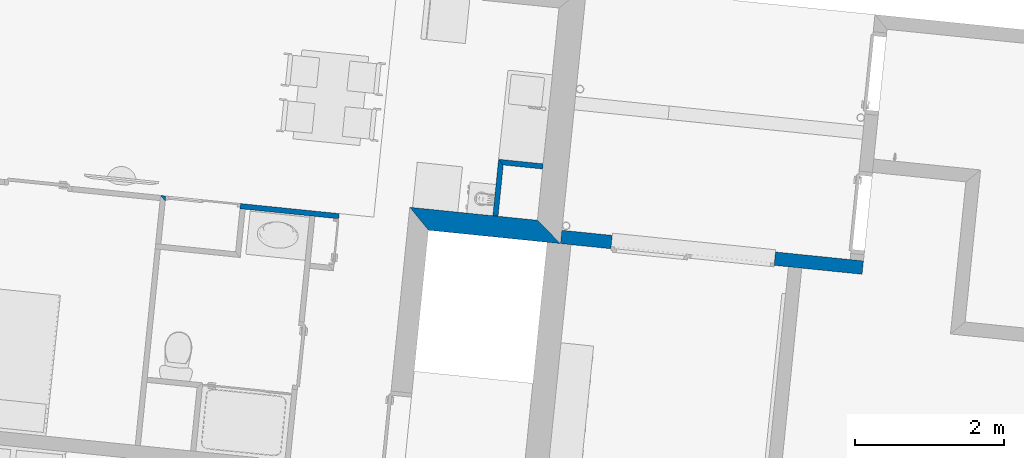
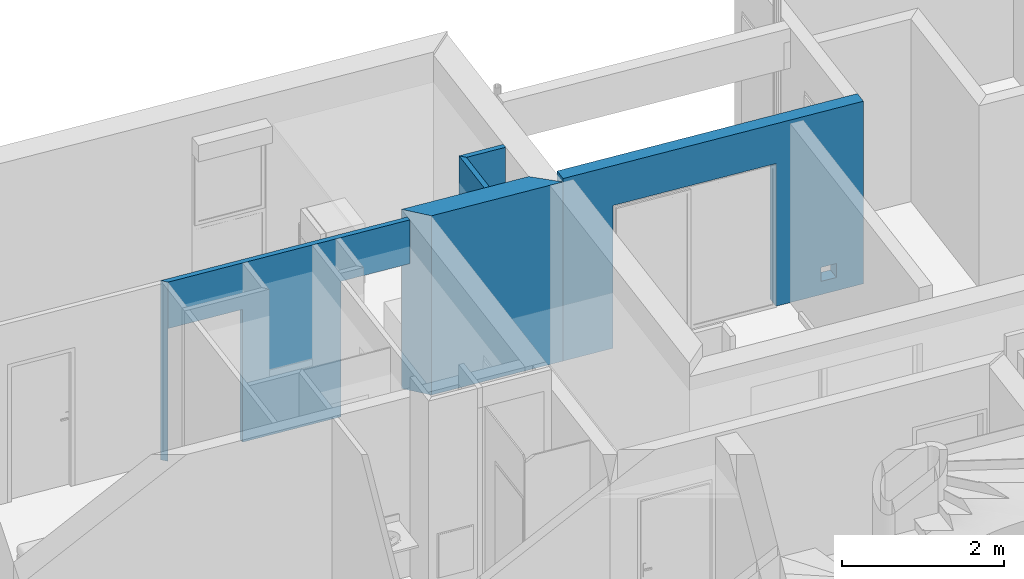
# One storey, part 71 of 171: 5 walls, 4 openings.
"""IFC2X3 building model written with IfcOpenShell, lengths in millimetres."""

from ifc_helpers import new_model, entity, si_unit, converted_unit, derived_unit, money_unit, direction, frame, origin_with_axes, origin_2d_with_axis, place, context, subcontext, project, spatial, polyline, rectangle, outline, extrude, material, layer, layer_set, layer_usage, type_object, element, save


model = new_model("IFC2X3")

# Units and contexts
model_context = context("Model", 3, precision=0.01, world=origin_with_axes(), true_north=direction((0.0, 1.0)))
body_context = subcontext(model_context, "Body", "Model", "MODEL_VIEW")
ifc_project = project(units=[si_unit("LENGTHUNIT", "METRE", prefix="MILLI"), si_unit("AREAUNIT", "SQUARE_METRE"), si_unit("VOLUMEUNIT", "CUBIC_METRE"), converted_unit("PLANEANGLEUNIT", "DEGREE", entity("IfcPlaneAngleMeasure", 0.0174532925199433), si_unit("PLANEANGLEUNIT", "RADIAN"), dimensions=[0, 0, 0, 0, 0, 0, 0]), money_unit("USD"), converted_unit("TIMEUNIT", "Year", entity("IfcTimeMeasure", 31557600.0), si_unit("TIMEUNIT", "SECOND"), dimensions=[0, 0, 1, 0, 0, 0, 0]), si_unit("MASSUNIT", "GRAM", prefix="KILO"), si_unit("THERMODYNAMICTEMPERATUREUNIT", "DEGREE_CELSIUS"), si_unit("LUMINOUSINTENSITYUNIT", "LUMEN"), si_unit("ENERGYUNIT", "JOULE", prefix="MEGA"), derived_unit("THERMALCONDUCTANCEUNIT", [(si_unit("POWERUNIT", "WATT"), 1), (si_unit("LENGTHUNIT", "METRE"), -1), (si_unit("THERMODYNAMICTEMPERATUREUNIT", "KELVIN"), -1)]), derived_unit("SPECIFICHEATCAPACITYUNIT", [(si_unit("ENERGYUNIT", "JOULE"), 1), (si_unit("MASSUNIT", "GRAM", prefix="KILO"), -1), (si_unit("THERMODYNAMICTEMPERATUREUNIT", "KELVIN"), -1)]), derived_unit("MASSDENSITYUNIT", [(si_unit("MASSUNIT", "GRAM", prefix="KILO"), 1), (si_unit("VOLUMEUNIT", "CUBIC_METRE"), -1)])], contexts=[model_context])

# Site, building, storey
site_placement = place(None, origin_with_axes())
site = spatial("IfcSite", under=ifc_project, at=site_placement, Name="Site", CompositionType="ELEMENT")
building_placement = place(site_placement, origin_with_axes())
building = spatial("IfcBuilding", under=site, at=building_placement, Name="Bâtiment", CompositionType="ELEMENT")
storey_placement = place(building_placement, frame((0.0, 0.0, 3000.0), z_axis=(0.0, 0.0, 1.0), x_axis=(1.0, 0.0, 0.0)))
storey = spatial("IfcBuildingStorey", under=building, at=storey_placement, Name="rdc", CompositionType="ELEMENT", Elevation=3000.0)

# Wall, openings
ifc_material_1 = material(Name="Hachure solide 268963992")
ifc_layer_1 = layer(ifc_material_1, 70.0, ventilated="UNKNOWN")
ifc_layer_set_1 = layer_set([ifc_layer_1], Name="Cloison 70 0826278243")
ifc_layer_usage_1 = layer_usage(ifc_layer_set_1, "AXIS2", "POSITIVE", -70.0)
wall_type_1 = type_object("IfcWallType", Name="Cloison 70 0826278243 70", PredefinedType="NOTDEFINED")
wall_1_placement = place(storey_placement, frame((2220799.415976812, -607663.1592158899, 0.0), z_axis=(0.0, 0.0, 1.0), x_axis=(0.9948759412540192, -0.1011032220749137, 0.0)))
wall_1 = element("IfcWallStandardCase", 1, at=wall_1_placement, inside=storey, type_object=wall_type_1, material=ifc_layer_usage_1, Name="Mur-149", context=body_context, shape_type="SweptSolid", body=[
    extrude(outline(polyline([(70.00761785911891, -70.00000000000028), (3339.219374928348, -70.00000000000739), (3339.219374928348, 0.0), (-2.273736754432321e-10, 0.0), (70.00761785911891, -70.00000000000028)])), origin_with_axes(), (0.0, 0.0, 1.0), 2700.0),
])
opening_1_placement = place(wall_1_placement, frame((2872.832599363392, 0.0, 0.0), z_axis=(0.0, 0.0, 1.0), x_axis=(1.0, 0.0, 0.0)))
element("IfcOpeningElement", 2, at=opening_1_placement, cuts=wall_1, Name="Por-287", context=body_context, shape_type="SweptSolid", body=[
    extrude(rectangle(XDim=932.773551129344, YDim=2040.0, at=origin_2d_with_axis()), frame((0.0, 0.0, 1020.0), z_axis=(0.0, -1.0, 0.0), x_axis=(1.0, 0.0, 0.0)), (0.0, 0.0, -1.0), 70.0),
    extrude(rectangle(XDim=932.773551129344, YDim=2040.0, at=origin_2d_with_axis()), frame((0.0, 0.0, 1020.0), z_axis=(0.0, 1.0, 0.0), x_axis=(1.0, 0.0, 0.0)), (0.0, 0.0, -1.0), 70.0),
])
opening_2_placement = place(wall_1_placement, frame((573.4097265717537, 0.0, 0.0), z_axis=(0.0, 0.0, 1.0), x_axis=(1.0, 0.0, 0.0)))
element("IfcOpeningElement", 3, at=opening_2_placement, cuts=wall_1, Name="Por-322", context=body_context, shape_type="SweptSolid", body=[
    extrude(rectangle(XDim=1006.804217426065, YDim=2000.0, at=origin_2d_with_axis()), frame((0.0, 0.0, 1000.0), z_axis=(0.0, -1.0, 0.0), x_axis=(1.0, 0.0, 0.0)), (0.0, 0.0, -1.0), 70.0),
    extrude(rectangle(XDim=1006.804217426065, YDim=2000.0, at=origin_2d_with_axis()), frame((0.0, 0.0, 1000.0), z_axis=(0.0, 1.0, 0.0), x_axis=(1.0, 0.0, 0.0)), (0.0, 0.0, -1.0), 70.0),
])

# Walls
ifc_layer_usage_2 = layer_usage(ifc_layer_set_1, "AXIS2", "NEGATIVE", 70.0)
wall_2_placement = place(storey_placement, frame((2225330.464041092, -607179.0110872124, 0.0), z_axis=(0.0, 0.0, 1.0), x_axis=(-0.1011032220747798, -0.9948759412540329, 0.0)))
element("IfcWallStandardCase", 4, at=wall_2_placement, inside=storey, type_object=wall_type_1, material=ifc_layer_usage_2, Name="Mur-149", context=body_context, shape_type="SweptSolid", body=[
    extrude(outline(polyline([(0.0, 0.0), (760.3379417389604, 0.0), (760.3379417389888, 70.00000000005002), (70.00000000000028, 70.00000000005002), (0.0, 0.0)])), origin_with_axes(), (0.0, 0.0, 1.0), 2700.0),
])
ifc_layer_usage_3 = layer_usage(ifc_layer_set_1, "AXIS2", "NEGATIVE", 70.0)
wall_3_placement = place(storey_placement, frame((2226265.983473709, -607274.0822664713, 0.0), z_axis=(0.0, 0.0, 1.0), x_axis=(-0.9948759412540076, 0.1011032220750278, 0.0)))
element("IfcWallStandardCase", 5, at=wall_3_placement, inside=storey, type_object=wall_type_1, material=ifc_layer_usage_3, Name="Mur-149", context=body_context, shape_type="SweptSolid", body=[
    extrude(outline(polyline([(339.9999999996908, 0.0), (940.3377786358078, 0.0), (870.3377786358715, 69.99999999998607), (340.0000069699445, 69.99999999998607), (339.9999999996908, 0.0)])), origin_with_axes(), (0.0, 0.0, 1.0), 2700.0),
])
ifc_material_2 = material(Name="Parpaing 312445824")
ifc_layer_2 = layer(ifc_material_2, 180.0, ventilated="UNKNOWN")
ifc_material_3 = material(Name="Isolant styromousse 301821074")
ifc_layer_3 = layer(ifc_material_3, 100.0, ventilated="UNKNOWN")
ifc_layer_set_2 = layer_set([ifc_layer_2, ifc_layer_3], Name="isol int 18+10 0018356637")
ifc_layer_usage_4 = layer_usage(ifc_layer_set_2, "AXIS2", "POSITIVE", 0.0)
wall_type_2 = type_object("IfcWallType", Name="isol int 18+10 0018356637 280", PredefinedType="NOTDEFINED")
wall_4_placement = place(storey_placement, frame((2224389.922679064, -608129.1257098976, 0.0), z_axis=(0.0, 0.0, 1.0), x_axis=(0.9948759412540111, -0.1011032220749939, 0.0)))
element("IfcWallStandardCase", 6, at=wall_4_placement, inside=storey, type_object=wall_type_2, material=ifc_layer_usage_4, Name="Mur-142", context=body_context, shape_type="SweptSolid", body=[
    extrude(outline(polyline([(0.0, 0.0), (1779.999998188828, 0.0), (1440.000026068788, 280.0000000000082), (-280.0000000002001, 280.0000000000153), (0.0, 0.0)])), origin_with_axes(), (0.0, 0.0, 1.0), 2700.0),
])

# Wall, openings
ifc_layer_4 = layer(ifc_material_2, 180.0, ventilated="UNKNOWN")
ifc_layer_set_3 = layer_set([ifc_layer_4], Name="Beton  18 0836643197")
ifc_layer_usage_5 = layer_usage(ifc_layer_set_3, "AXIS2", "NEGATIVE", 0.0)
wall_type_3 = type_object("IfcWallType", Name="Beton  18 0836643197 180", PredefinedType="NOTDEFINED")
wall_5_placement = place(storey_placement, frame((2226179.000289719, -608130.0117790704, 0.0), z_axis=(0.0, 0.0, 1.0), x_axis=(0.9948663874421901, -0.1011971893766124, 0.0)))
wall_5 = element("IfcWallStandardCase", 7, at=wall_5_placement, inside=storey, type_object=wall_type_3, material=ifc_layer_usage_5, Name="Mur-142", context=body_context, shape_type="SweptSolid", body=[
    extrude(outline(polyline([(0.01714317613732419, -180.0000000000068), (4062.804140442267, -180.0000000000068), (4062.804140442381, 0.0), (0.0001597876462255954, 0.0), (0.01714317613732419, -180.0000000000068)])), origin_with_axes(), (0.0, 0.0, 1.0), 2750.0),
])
opening_3_placement = place(wall_5_placement, frame((1778.359146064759, 0.0, 0.0), z_axis=(0.0, 0.0, 1.0), x_axis=(1.0, 0.0, 0.0)))
element("IfcOpeningElement", 8, at=opening_3_placement, cuts=wall_5, Name="Fen-155", context=body_context, shape_type="SweptSolid", body=[
    extrude(rectangle(XDim=2199.989013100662, YDim=2150.0, at=origin_2d_with_axis()), frame((0.0, -150.0000000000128, 1075.0), z_axis=(0.0, 1.0, 0.0), x_axis=(1.0, 0.0, 0.0)), (0.0, 0.0, 1.0), 329.9999999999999),
    extrude(rectangle(XDim=2199.98901310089, YDim=2150.0, at=origin_2d_with_axis()), frame((1.13686837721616e-10, -149.9999999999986, 1075.0), z_axis=(0.0, -1.0, 0.0), x_axis=(1.0, 0.0, 0.0)), (0.0, 0.0, 1.0), 210.0),
])
opening_4_placement = place(wall_5_placement, frame((3592.598133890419, 0.0, 200.0000000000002), z_axis=(0.0, 0.0, 1.0), x_axis=(1.0, 0.0, 0.0)))
element("IfcOpeningElement", 9, at=opening_4_placement, cuts=wall_5, Name="Fen-211", context=body_context, shape_type="SweptSolid", body=[
    extrude(rectangle(XDim=209.9999999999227, YDim=210.0, at=origin_2d_with_axis()), frame((0.0, -289.999999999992, 105.0), z_axis=(0.0, -1.0, 0.0), x_axis=(1.0, 0.0, 0.0)), (0.0, 0.0, -1.0), 470.0),
    extrude(rectangle(XDim=209.9999999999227, YDim=210.0, at=origin_2d_with_axis()), frame((0.0, -289.999999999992, 105.0), z_axis=(0.0, 1.0, 0.0), x_axis=(1.0, 0.0, 0.0)), (0.0, 0.0, -1.0), 470.0),
])

save(model, "model.ifc")
